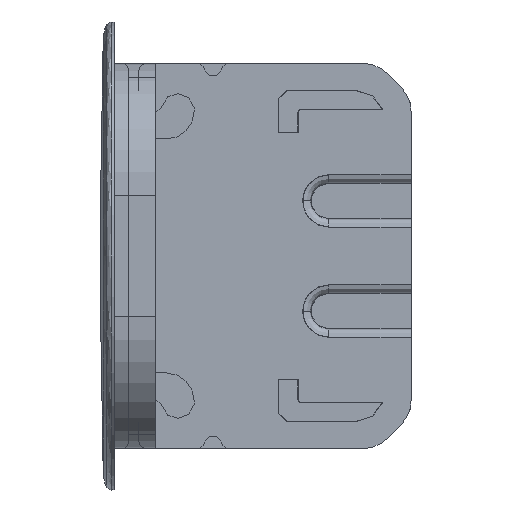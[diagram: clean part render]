
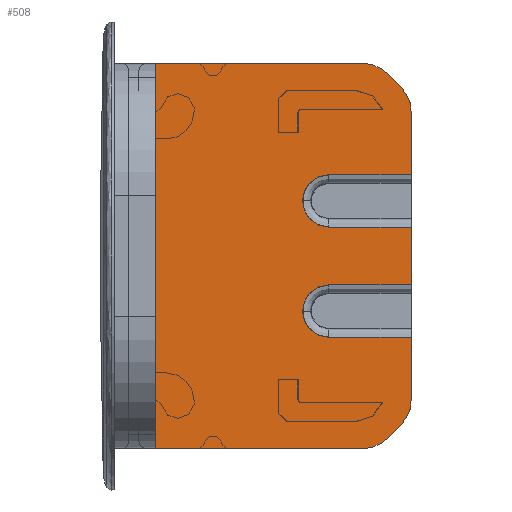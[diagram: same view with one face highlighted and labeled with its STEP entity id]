
A CAD part, left-side view. The second image highlights one B-rep face of the part: STEP entity #508.
In plain terms, the highlighted planar face has unit normal (-1, 0, 0).
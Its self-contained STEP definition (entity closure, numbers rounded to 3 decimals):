
#284=CIRCLE('',#4048,0.95);
#288=CIRCLE('',#4053,0.95);
#314=CIRCLE('',#4091,1.3);
#315=CIRCLE('',#4094,1.3);
#318=CIRCLE('',#4099,1.3);
#319=CIRCLE('',#4102,1.3);
#320=CIRCLE('',#4106,0.95);
#321=CIRCLE('',#4107,0.95);
#508=ADVANCED_FACE('',(#804),#661,.T.);
#661=PLANE('',#4108);
#804=FACE_OUTER_BOUND('',#1015,.T.);
#1015=EDGE_LOOP('',(#1745,#1746,#1747,#1748,#1749,#1750,#1751,#1752,#1753,
#1754,#1755,#1756,#1757,#1758,#1759,#1760,#1761,#1762,#1763,#1764,#1765,
#1766));
#1745=ORIENTED_EDGE('',*,*,#2962,.F.);
#1746=ORIENTED_EDGE('',*,*,#2974,.T.);
#1747=ORIENTED_EDGE('',*,*,#2975,.T.);
#1748=ORIENTED_EDGE('',*,*,#2893,.T.);
#1749=ORIENTED_EDGE('',*,*,#2976,.T.);
#1750=ORIENTED_EDGE('',*,*,#2899,.F.);
#1751=ORIENTED_EDGE('',*,*,#2977,.T.);
#1752=ORIENTED_EDGE('',*,*,#2978,.T.);
#1753=ORIENTED_EDGE('',*,*,#2889,.T.);
#1754=ORIENTED_EDGE('',*,*,#2979,.T.);
#1755=ORIENTED_EDGE('',*,*,#2905,.F.);
#1756=ORIENTED_EDGE('',*,*,#2965,.F.);
#1757=ORIENTED_EDGE('',*,*,#2967,.F.);
#1758=ORIENTED_EDGE('',*,*,#2969,.F.);
#1759=ORIENTED_EDGE('',*,*,#2972,.F.);
#1760=ORIENTED_EDGE('',*,*,#2980,.F.);
#1761=ORIENTED_EDGE('',*,*,#2981,.T.);
#1762=ORIENTED_EDGE('',*,*,#2982,.F.);
#1763=ORIENTED_EDGE('',*,*,#2951,.F.);
#1764=ORIENTED_EDGE('',*,*,#2955,.F.);
#1765=ORIENTED_EDGE('',*,*,#2957,.F.);
#1766=ORIENTED_EDGE('',*,*,#2959,.F.);
#2439=VERTEX_POINT('',#6402);
#2440=VERTEX_POINT('',#6403);
#2443=VERTEX_POINT('',#6411);
#2444=VERTEX_POINT('',#6412);
#2449=VERTEX_POINT('',#6423);
#2450=VERTEX_POINT('',#6425);
#2455=VERTEX_POINT('',#6437);
#2456=VERTEX_POINT('',#6438);
#2491=VERTEX_POINT('',#6527);
#2492=VERTEX_POINT('',#6529);
#2494=VERTEX_POINT('',#6535);
#2495=VERTEX_POINT('',#6539);
#2496=VERTEX_POINT('',#6543);
#2499=VERTEX_POINT('',#6550);
#2500=VERTEX_POINT('',#6555);
#2501=VERTEX_POINT('',#6559);
#2502=VERTEX_POINT('',#6563);
#2504=VERTEX_POINT('',#6569);
#2505=VERTEX_POINT('',#6664);
#2506=VERTEX_POINT('',#6668);
#2507=VERTEX_POINT('',#6672);
#2508=VERTEX_POINT('',#6674);
#2889=EDGE_CURVE('',#2439,#2440,#284,.T.);
#2893=EDGE_CURVE('',#2443,#2444,#288,.T.);
#2899=EDGE_CURVE('',#2449,#2450,#3370,.T.);
#2905=EDGE_CURVE('',#2455,#2456,#3373,.T.);
#2951=EDGE_CURVE('',#2491,#2492,#3401,.T.);
#2955=EDGE_CURVE('',#2494,#2491,#314,.T.);
#2957=EDGE_CURVE('',#2495,#2494,#3406,.T.);
#2959=EDGE_CURVE('',#2496,#2495,#315,.T.);
#2962=EDGE_CURVE('',#2499,#2496,#3409,.T.);
#2965=EDGE_CURVE('',#2500,#2455,#318,.T.);
#2967=EDGE_CURVE('',#2501,#2500,#3412,.T.);
#2969=EDGE_CURVE('',#2502,#2501,#319,.T.);
#2972=EDGE_CURVE('',#2504,#2502,#3416,.T.);
#2974=EDGE_CURVE('',#2499,#2505,#3417,.T.);
#2975=EDGE_CURVE('',#2505,#2443,#320,.T.);
#2976=EDGE_CURVE('',#2444,#2450,#3418,.T.);
#2977=EDGE_CURVE('',#2449,#2506,#3419,.T.);
#2978=EDGE_CURVE('',#2506,#2439,#321,.T.);
#2979=EDGE_CURVE('',#2440,#2456,#3420,.T.);
#2980=EDGE_CURVE('',#2507,#2504,#3421,.T.);
#2981=EDGE_CURVE('',#2507,#2508,#3422,.T.);
#2982=EDGE_CURVE('',#2492,#2508,#3423,.T.);
#3370=LINE('',#6424,#3718);
#3373=LINE('',#6436,#3721);
#3401=LINE('',#6528,#3749);
#3406=LINE('',#6540,#3754);
#3409=LINE('',#6551,#3757);
#3412=LINE('',#6560,#3760);
#3416=LINE('',#6570,#3764);
#3417=LINE('',#6663,#3765);
#3418=LINE('',#6666,#3766);
#3419=LINE('',#6667,#3767);
#3420=LINE('',#6670,#3768);
#3421=LINE('',#6671,#3769);
#3422=LINE('',#6673,#3770);
#3423=LINE('',#6675,#3771);
#3718=VECTOR('',#4789,1.);
#3721=VECTOR('',#4800,1.);
#3749=VECTOR('',#4882,1.);
#3754=VECTOR('',#4893,1.);
#3757=VECTOR('',#4904,1.);
#3760=VECTOR('',#4915,1.);
#3764=VECTOR('',#4925,1.);
#3765=VECTOR('',#4930,1.);
#3766=VECTOR('',#4933,1.);
#3767=VECTOR('',#4934,1.);
#3768=VECTOR('',#4937,1.);
#3769=VECTOR('',#4938,1.);
#3770=VECTOR('',#4939,1.);
#3771=VECTOR('',#4940,1.);
#4048=AXIS2_PLACEMENT_3D('',#6401,#4766,#4767);
#4053=AXIS2_PLACEMENT_3D('',#6410,#4776,#4777);
#4091=AXIS2_PLACEMENT_3D('',#6536,#4888,#4889);
#4094=AXIS2_PLACEMENT_3D('',#6544,#4897,#4898);
#4099=AXIS2_PLACEMENT_3D('',#6556,#4910,#4911);
#4102=AXIS2_PLACEMENT_3D('',#6564,#4919,#4920);
#4106=AXIS2_PLACEMENT_3D('',#6665,#4931,#4932);
#4107=AXIS2_PLACEMENT_3D('',#6669,#4935,#4936);
#4108=AXIS2_PLACEMENT_3D('',#6676,#4941,#4942);
#4766=DIRECTION('',(1.,0.,0.));
#4767=DIRECTION('',(0.,1.,0.));
#4776=DIRECTION('',(1.,0.,0.));
#4777=DIRECTION('',(0.,1.,0.));
#4789=DIRECTION('',(0.,0.,-1.));
#4800=DIRECTION('',(0.,0.,-1.));
#4882=DIRECTION('',(0.,1.,0.));
#4888=DIRECTION('',(1.,0.,0.));
#4889=DIRECTION('',(0.,1.,0.));
#4893=DIRECTION('',(0.,0.707,-0.707));
#4897=DIRECTION('',(1.,0.,0.));
#4898=DIRECTION('',(0.,1.,0.));
#4904=DIRECTION('',(0.,0.,-1.));
#4910=DIRECTION('',(1.,0.,0.));
#4911=DIRECTION('',(0.,1.,0.));
#4915=DIRECTION('',(0.,-0.707,-0.707));
#4919=DIRECTION('',(1.,0.,0.));
#4920=DIRECTION('',(0.,-1.,0.));
#4925=DIRECTION('',(0.,-1.,0.));
#4930=DIRECTION('',(0.,1.,0.));
#4931=DIRECTION('',(1.,0.,0.));
#4932=DIRECTION('',(0.,1.,0.));
#4933=DIRECTION('',(0.,-1.,0.));
#4934=DIRECTION('',(0.,1.,0.));
#4935=DIRECTION('',(1.,0.,0.));
#4936=DIRECTION('',(0.,1.,0.));
#4937=DIRECTION('',(0.,-1.,0.));
#4938=DIRECTION('',(0.,0.,1.));
#4939=DIRECTION('',(0.,0.,-1.));
#4940=DIRECTION('',(0.,0.,1.));
#4941=DIRECTION('',(-1.,0.,0.));
#4942=DIRECTION('',(0.,0.,-1.));
#6401=CARTESIAN_POINT('',(-51.75,2.999,2.));
#6402=CARTESIAN_POINT('',(-51.75,3.949,2.));
#6403=CARTESIAN_POINT('',(-51.75,2.999,2.95));
#6410=CARTESIAN_POINT('',(-51.75,2.999,-2.));
#6411=CARTESIAN_POINT('',(-51.75,3.949,-2.));
#6412=CARTESIAN_POINT('',(-51.75,2.999,-1.05));
#6423=CARTESIAN_POINT('',(-51.75,-0.001,1.05));
#6424=CARTESIAN_POINT('',(-51.75,-0.001,-2.938));
#6425=CARTESIAN_POINT('',(-51.75,-0.001,-1.05));
#6436=CARTESIAN_POINT('',(-51.75,-0.001,-2.938));
#6437=CARTESIAN_POINT('',(-51.75,-0.001,5.226));
#6438=CARTESIAN_POINT('',(-51.75,-0.001,2.95));
#6527=CARTESIAN_POINT('',(-51.75,1.773,-7.));
#6528=CARTESIAN_POINT('',(-51.75,6.28,-7.));
#6529=CARTESIAN_POINT('',(-51.75,9.287,-7.));
#6535=CARTESIAN_POINT('',(-51.75,0.854,-6.619));
#6536=CARTESIAN_POINT('',(-51.75,1.773,-5.7));
#6539=CARTESIAN_POINT('',(-51.75,0.38,-6.145));
#6540=CARTESIAN_POINT('',(-51.75,0.617,-6.382));
#6543=CARTESIAN_POINT('',(-51.75,-0.001,-5.226));
#6544=CARTESIAN_POINT('',(-51.75,1.299,-5.226));
#6550=CARTESIAN_POINT('',(-51.75,-0.001,-2.95));
#6551=CARTESIAN_POINT('',(-51.75,-0.001,-2.938));
#6555=CARTESIAN_POINT('',(-51.75,0.38,6.145));
#6556=CARTESIAN_POINT('',(-51.75,1.299,5.226));
#6559=CARTESIAN_POINT('',(-51.75,0.854,6.619));
#6560=CARTESIAN_POINT('',(-51.75,0.617,6.382));
#6563=CARTESIAN_POINT('',(-51.75,1.773,7.));
#6564=CARTESIAN_POINT('',(-51.75,1.773,5.7));
#6569=CARTESIAN_POINT('',(-51.75,9.287,7.));
#6570=CARTESIAN_POINT('',(-51.75,6.28,7.));
#6663=CARTESIAN_POINT('',(-51.75,2.999,-2.95));
#6664=CARTESIAN_POINT('',(-51.75,2.999,-2.95));
#6665=CARTESIAN_POINT('',(-51.75,2.999,-2.));
#6666=CARTESIAN_POINT('',(-51.75,-0.001,-1.05));
#6667=CARTESIAN_POINT('',(-51.75,2.999,1.05));
#6668=CARTESIAN_POINT('',(-51.75,2.999,1.05));
#6669=CARTESIAN_POINT('',(-51.75,2.999,2.));
#6670=CARTESIAN_POINT('',(-51.75,-0.001,2.95));
#6671=CARTESIAN_POINT('',(-51.75,9.287,-7.7));
#6672=CARTESIAN_POINT('',(-51.75,9.287,6.5));
#6673=CARTESIAN_POINT('',(-51.75,9.287,-7.7));
#6674=CARTESIAN_POINT('',(-51.75,9.287,-6.5));
#6675=CARTESIAN_POINT('',(-51.75,9.287,-7.7));
#6676=CARTESIAN_POINT('',(-51.75,-26.506,-33.741));
